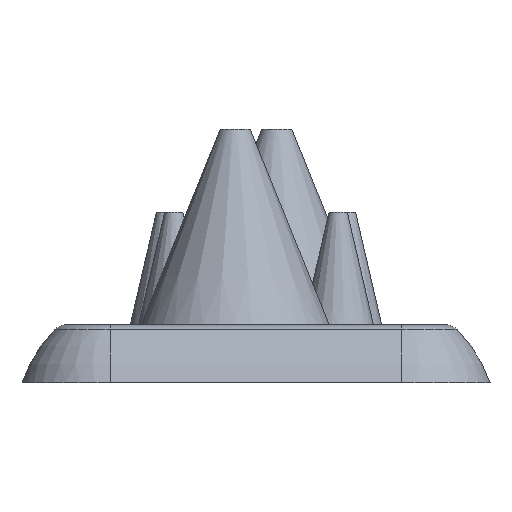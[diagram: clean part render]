
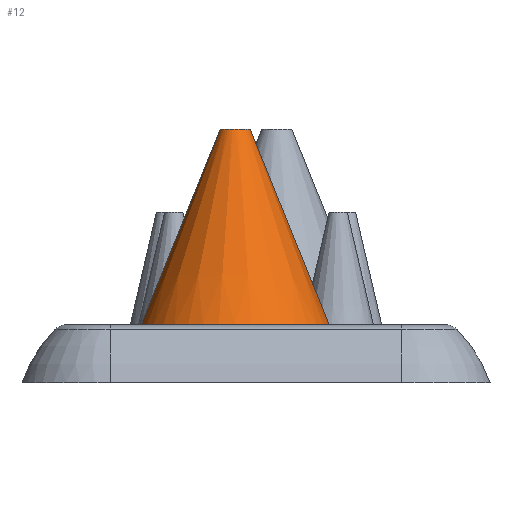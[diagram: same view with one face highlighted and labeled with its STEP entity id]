
A CAD part, left-side view. The second image highlights one B-rep face of the part: STEP entity #12.
In plain terms, the highlighted conical face has half-angle 21.953 degrees and reference radius 4.849 mm.
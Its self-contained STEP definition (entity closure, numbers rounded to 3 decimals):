
#12 = ADVANCED_FACE ( 'NONE', ( #674 ), #367, .T. ) ;
#22 = EDGE_CURVE ( 'NONE', #1051, #216, #76, .T. ) ;
#55 = ORIENTED_EDGE ( 'NONE', *, *, #22, .F. ) ;
#61 = AXIS2_PLACEMENT_3D ( 'NONE', #1266, #1171, #1036 ) ;
#68 = DIRECTION ( 'NONE',  ( 0., 0.374, -0.927 ) ) ;
#76 = LINE ( 'NONE', #1612, #1017 ) ;
#109 = CARTESIAN_POINT ( 'NONE',  ( -43.5, 0.689, 23.5 ) ) ;
#216 = VERTEX_POINT ( 'NONE', #661 ) ;
#327 = DIRECTION ( 'NONE',  ( 0., 0., -1. ) ) ;
#345 = VECTOR ( 'NONE', #68, 1000. ) ;
#358 = AXIS2_PLACEMENT_3D ( 'NONE', #1148, #779, #1121 ) ;
#367 = CONICAL_SURFACE ( 'NONE', #1126, 4.849, 0.383 ) ;
#405 = VERTEX_POINT ( 'NONE', #1061 ) ;
#547 = EDGE_CURVE ( 'NONE', #1051, #829, #660, .T. ) ;
#640 = ORIENTED_EDGE ( 'NONE', *, *, #653, .T. ) ;
#653 = EDGE_CURVE ( 'NONE', #829, #405, #1029, .T. ) ;
#660 = CIRCLE ( 'NONE', #61, 1.811 ) ;
#661 = CARTESIAN_POINT ( 'NONE',  ( -43.5, -8.783, 0. ) ) ;
#674 = FACE_OUTER_BOUND ( 'NONE', #1658, .T. ) ;
#766 = CARTESIAN_POINT ( 'NONE',  ( -43.5, 4.311, 23.5 ) ) ;
#779 = DIRECTION ( 'NONE',  ( 0., 0., 1. ) ) ;
#829 = VERTEX_POINT ( 'NONE', #766 ) ;
#927 = ORIENTED_EDGE ( 'NONE', *, *, #1622, .T. ) ;
#972 = DIRECTION ( 'NONE',  ( 0., -0.374, -0.927 ) ) ;
#1003 = CARTESIAN_POINT ( 'NONE',  ( -43.5, 2.5, 15.964 ) ) ;
#1017 = VECTOR ( 'NONE', #972, 1000. ) ;
#1029 = LINE ( 'NONE', #1041, #345 ) ;
#1036 = DIRECTION ( 'NONE',  ( 0., 1., 0. ) ) ;
#1041 = CARTESIAN_POINT ( 'NONE',  ( -43.5, 7.349, 15.964 ) ) ;
#1051 = VERTEX_POINT ( 'NONE', #109 ) ;
#1061 = CARTESIAN_POINT ( 'NONE',  ( -43.5, 13.783, 0. ) ) ;
#1121 = DIRECTION ( 'NONE',  ( 1., 0., 0. ) ) ;
#1126 = AXIS2_PLACEMENT_3D ( 'NONE', #1003, #327, #1598 ) ;
#1148 = CARTESIAN_POINT ( 'NONE',  ( -43.5, 2.5, 0. ) ) ;
#1159 = ORIENTED_EDGE ( 'NONE', *, *, #547, .T. ) ;
#1171 = DIRECTION ( 'NONE',  ( 0., 0., -1. ) ) ;
#1266 = CARTESIAN_POINT ( 'NONE',  ( -43.5, 2.5, 23.5 ) ) ;
#1597 = CIRCLE ( 'NONE', #358, 11.283 ) ;
#1598 = DIRECTION ( 'NONE',  ( 0., 1., 0. ) ) ;
#1612 = CARTESIAN_POINT ( 'NONE',  ( -43.5, -2.349, 15.964 ) ) ;
#1622 = EDGE_CURVE ( 'NONE', #405, #216, #1597, .T. ) ;
#1658 = EDGE_LOOP ( 'NONE', ( #55, #1159, #640, #927 ) ) ;
